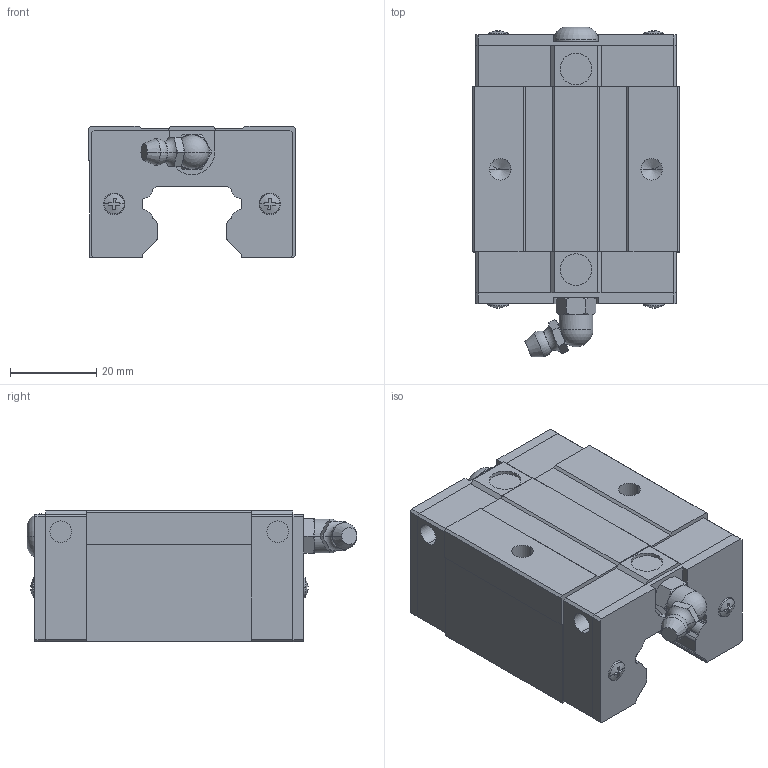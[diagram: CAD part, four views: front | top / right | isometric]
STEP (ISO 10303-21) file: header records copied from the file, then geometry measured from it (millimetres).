
FILE_DESCRIPTION(('no description'),'unknown implementation level');
FILE_NAME('HGL25SA_Z0_H_SS_1.stp',' ',('HIWIN GmbH'),('CADClick - KiM GmbH - www.kimweb.de'),'unknown preprocess','ACIS','unknown authorization');
FILE_SCHEMA(('automotive_design'));
Length unit declared in the file: millimetre
Products named in the file (1): 1
Bounding box: 48 x 76.31 x 30.5 mm (x, y, z)
Volume: 68226.7 mm3; surface area: 15633.7 mm2
Topology: 1 solids, 4 shells, 439 faces, 1198 edges, 780 vertices
Faces by surface type: plane 307, cylinder 70, cone 42, torus 18, sphere 2
Entity records: 27210 total; most frequent: CARTESIAN_POINT 3156, STYLED_ITEM 2412, PRESENTATION_STYLE_ASSIGNMENT 2412, COLOUR_RGB 2412, ORIENTED_EDGE 2384, DIRECTION 2070, EDGE_CURVE 1192, CURVE_STYLE 1192
